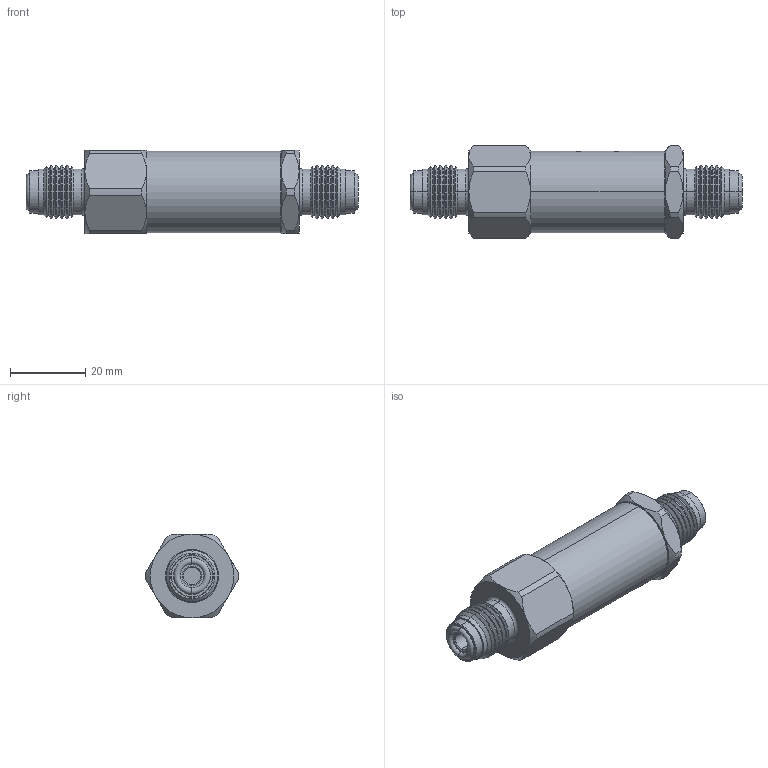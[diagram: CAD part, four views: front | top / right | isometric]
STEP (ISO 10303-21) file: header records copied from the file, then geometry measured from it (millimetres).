
FILE_DESCRIPTION (( 'STEP AP203' ), '1' );
FILE_NAME ('IRV4V-4V-V-150-X.STEP', '2017-01-27T17:14:24', ( '' ), ( '' ), 'SwSTEP 2.0', 'SolidWorks 2011', '' );
FILE_SCHEMA (( 'CONFIG_CONTROL_DESIGN' ));
Length unit declared in the file: inch
Products named in the file (2): Part8^IRV4V-4V-V-150-X_CM; IRV4V-4V-V-150-X
Assembly tree (1 placements, depth 2):
  IRV4V-4V-V-150-X
    Part8^IRV4V-4V-V-150-X_CM
Bounding box: 88.49 x 24.76 x 22.23 mm (x, y, z)
Volume: 25796.2 mm3; surface area: 6907 mm2
Topology: 1 solids, 1 shells, 193 faces, 414 edges, 234 vertices
Faces by surface type: cone 82, cylinder 67, plane 30, torus 8, bspline 6
Entity records: 5568 total; most frequent: CARTESIAN_POINT 1229, DIRECTION 928, ORIENTED_EDGE 828, EDGE_CURVE 414, AXIS2_PLACEMENT_3D 393, VERTEX_POINT 234, EDGE_LOOP 204, CIRCLE 202
